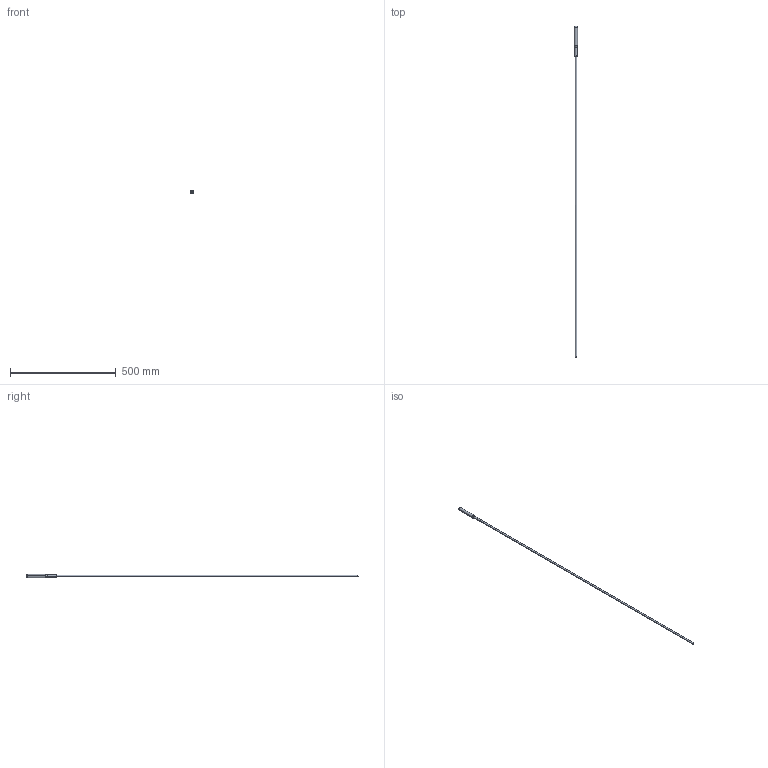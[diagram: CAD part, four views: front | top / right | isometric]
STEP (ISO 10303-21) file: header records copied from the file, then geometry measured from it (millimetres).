
FILE_DESCRIPTION((''),'2;1');
FILE_NAME('LINFA160_SW0001','2025-05-27T10:13:00',('elena.baldelli'),(''),'CREO PARAMETRIC BY PTC INC, 2020354','CREO PARAMETRIC BY PTC INC, 2020354','');
FILE_SCHEMA(('CONFIG_CONTROL_DESIGN'));
Length unit declared in the file: millimetre
Products named in the file (1): LINFA160_SW0001
Bounding box: 15 x 1573.46 x 15 mm (x, y, z)
Surface area: 42527.3 mm2 (no closed solid volume)
Topology: 0 solids, 3 shells, 11 faces, 30 edges, 19 vertices
Faces by surface type: cylinder 6, revolution 4, plane 1
Entity records: 529 total; most frequent: CARTESIAN_POINT 223, DIRECTION 54, ORIENTED_EDGE 48, EDGE_CURVE 28, AXIS2_PLACEMENT_3D 21, VERTEX_POINT 19, CIRCLE 14, EDGE_LOOP 11
